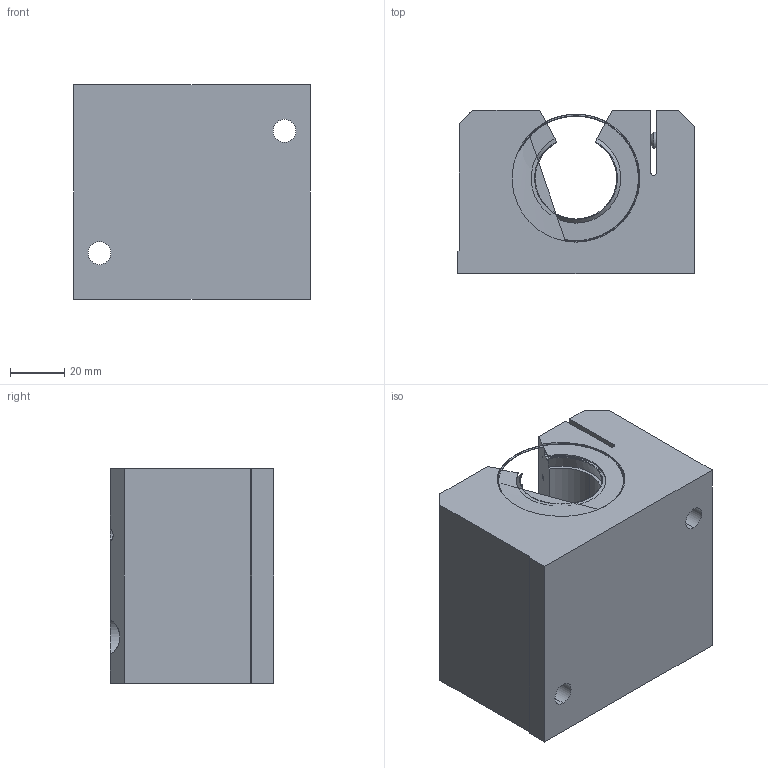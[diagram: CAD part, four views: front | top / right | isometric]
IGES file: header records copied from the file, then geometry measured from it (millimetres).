
Start section: 3D InterOp IGES (Version 21 0 1), Spatial Corp. Copyright (c) 1999-2007.
Global section: file name: SLS-30-OP.igs; native system: Spatial Corp.; preprocessor: 3D InterOp GENERIC/IGES 3.0; author: Noname; organization: Noname; date: 20220310.163640; units: millimetre
Bounding box: 87 x 60 x 79 mm (x, y, z)
Surface area: 50525.6 mm2 (no closed solid volume)
Topology: 0 solids, 0 shells, 144 faces, 798 edges, 788 vertices
Faces by surface type: revolution 97, extrusion 47
